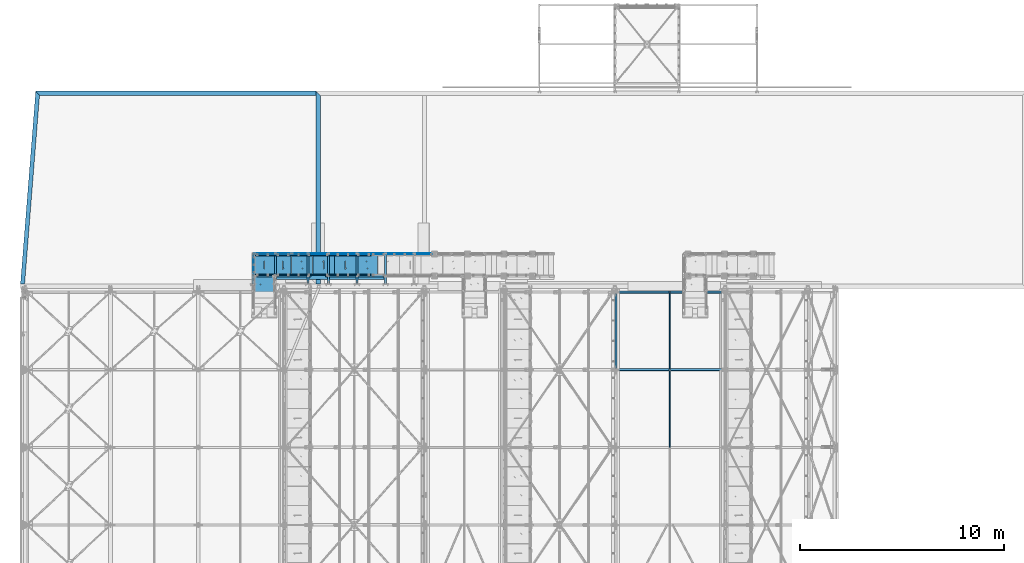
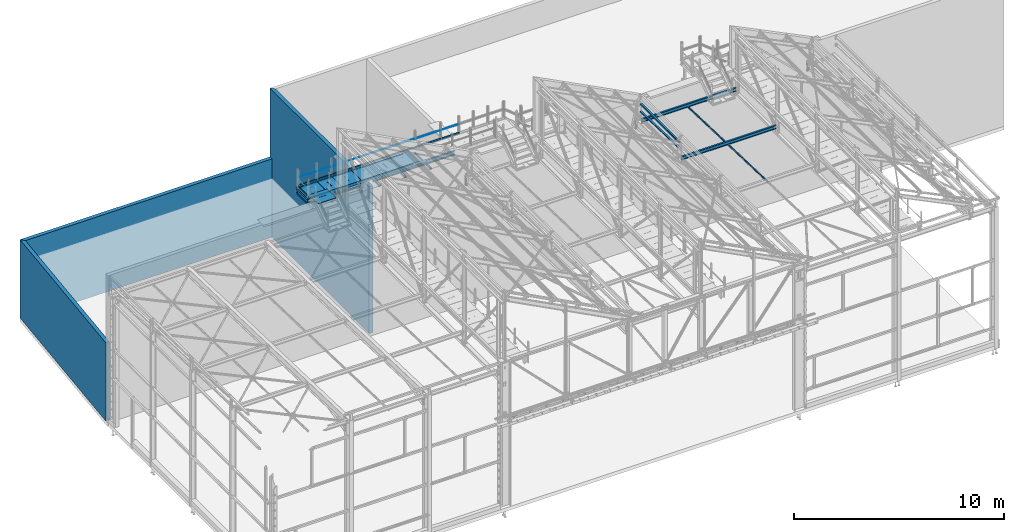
# One storey, part 52 of 362: 33 beams, 31 elements without a shape of their own.
"""IFC2X3 building model written with IfcOpenShell, lengths in millimetres."""

from ifc_helpers import new_model, si_unit, frame, origin_with_axes, origin_2d_with_axis, place, context, subcontext, project, spatial, polyline, rectangle, hollow_rectangle, hollow_circle, i_section, l_section, u_section, outline, extrude, boolean, clip, halfspace, material, type_object, element, aggregate, save


model = new_model("IFC2X3")

# Units and contexts
model_context = context("Model", 3, precision=1e-05, world=origin_with_axes())
body_context = subcontext(model_context, "Body", "Model", "MODEL_VIEW")
ifc_project = project(units=[si_unit("LENGTHUNIT", "METRE", prefix="MILLI"), si_unit("AREAUNIT", "SQUARE_METRE"), si_unit("VOLUMEUNIT", "CUBIC_METRE"), si_unit("MASSUNIT", "GRAM", prefix="KILO"), si_unit("TIMEUNIT", "SECOND"), si_unit("PLANEANGLEUNIT", "RADIAN"), si_unit("SOLIDANGLEUNIT", "STERADIAN"), si_unit("THERMODYNAMICTEMPERATUREUNIT", "DEGREE_CELSIUS"), si_unit("LUMINOUSINTENSITYUNIT", "LUMEN")], contexts=[model_context])

# Site, building, storey
site_placement = place(None, origin_with_axes())
site = spatial("IfcSite", under=ifc_project, at=site_placement, Name="Undefined", CompositionType="ELEMENT")
building_placement = place(site_placement, origin_with_axes())
building = spatial("IfcBuilding", under=site, at=building_placement, Name="Undefined", CompositionType="ELEMENT")
storey_placement = place(building_placement, origin_with_axes())
storey = spatial("IfcBuildingStorey", under=building, at=storey_placement, Name="Undefined", CompositionType="ELEMENT", Elevation=0.0)

# Assembly, beam
assembly_1_placement = place(storey_placement, origin_with_axes())
assembly_1 = element("IfcElementAssembly", 1, at=assembly_1_placement, inside=storey, Name="MAIN COURANTE", AssemblyPlace="NOTDEFINED", PredefinedType="NOTDEFINED")
ifc_material_1 = material(Name="Undefined/S235-E24")
beam_type_1 = type_object("IfcBeamType", Name="PL200*6", PredefinedType="NOTDEFINED")
beam_1_placement = place(assembly_1_placement, frame((17579.9961849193, 15930.0010285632, 8703.00000001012), z_axis=(0.0, -1.0, 0.0), x_axis=(-1.0, 0.0, 0.0)))
beam_1 = element("IfcBeam", 2, at=beam_1_placement, type_object=beam_type_1, material=ifc_material_1, Name="CACHE VIDE", ObjectType="PL200*6", context=body_context, shape_type="SweptSolid", body=[
    extrude(rectangle(XDim=6.0, YDim=200.0, at=origin_2d_with_axis()), frame((5350.00080258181, 0.0, 0.0), z_axis=(-1.0, 0.0, 0.0), x_axis=(0.0, -1.0, 0.0)), (0.0, 0.0, 1.0), 5350.0),
])
aggregate(assembly_1, [beam_1])

assembly_2_placement = place(storey_placement, origin_with_axes())
assembly_2 = element("IfcElementAssembly", 3, at=assembly_2_placement, inside=storey, Name="MAIN COURANTE", AssemblyPlace="NOTDEFINED", PredefinedType="NOTDEFINED")
beam_type_2 = type_object("IfcBeamType", Name="TUBE-21.3*2", PredefinedType="NOTDEFINED")
beam_2_placement = place(assembly_2_placement, frame((14859.9961849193, 17089.994110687, 9243.80000001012), z_axis=(0.0, 1.0, 0.0), x_axis=(1.0, 0.0, 0.0)))
beam_2 = element("IfcBeam", 4, at=beam_2_placement, type_object=beam_type_2, material=ifc_material_1, Name="LISSE", ObjectType="TUBE-21.3*2", context=body_context, shape_type="SweptSolid", body=[
    extrude(hollow_circle(Radius=10.64999962, WallThickness=2.0, at=origin_2d_with_axis()), frame((5189.99999999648, 0.0, 0.0), z_axis=(-1.0, 0.0, 0.0), x_axis=(0.0, -1.0, 0.0)), (0.0, 0.0, 1.0), 5190.0),
])

assembly_3_placement = place(storey_placement, origin_with_axes())
assembly_3 = element("IfcElementAssembly", 5, at=assembly_3_placement, inside=storey, Name="MAIN COURANTE", AssemblyPlace="NOTDEFINED", PredefinedType="NOTDEFINED")
beam_3_placement = place(assembly_3_placement, frame((11225.0062475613, 17089.9937511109, 9243.80000001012), z_axis=(0.0, 1.0, 0.0), x_axis=(1.0, 0.0, 0.0)))
beam_3 = element("IfcBeam", 6, at=beam_3_placement, type_object=beam_type_2, material=ifc_material_1, Name="LISSE", ObjectType="TUBE-21.3*2", context=body_context, shape_type="SweptSolid", body=[
    extrude(hollow_circle(Radius=10.64999962, WallThickness=2.0, at=origin_2d_with_axis()), frame((3624.98993735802, 0.0, 0.0), z_axis=(-1.0, 0.0, 0.0), x_axis=(0.0, -1.0, 0.0)), (0.0, 0.0, 1.0), 3624.99),
])

assembly_4_placement = place(storey_placement, origin_with_axes())
assembly_4 = element("IfcElementAssembly", 7, at=assembly_4_placement, inside=storey, Name="CONSOLE", AssemblyPlace="NOTDEFINED", PredefinedType="NOTDEFINED")
beam_type_3 = type_object("IfcBeamType", Name="TUBE-C-100*100*5", PredefinedType="NOTDEFINED")
beam_4_placement = place(assembly_4_placement, frame((12255.0007605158, 17119.9934272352, 8390.0), z_axis=(-1.0, 0.0, 0.0), x_axis=(0.0, -1.0, 0.0)))
beam_4 = element("IfcBeam", 8, at=beam_4_placement, type_object=beam_type_3, material=ifc_material_1, Name="CONSOLE", ObjectType="TUBE-C-100*100*5", context=body_context, shape_type="CSG", body=[
    boolean("DIFFERENCE", extrude(hollow_rectangle(XDim=100.0, YDim=100.0, WallThickness=5.0, InnerFilletRadius=5.0, OuterFilletRadius=10.0, at=origin_2d_with_axis()), frame((1517.99358081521, 0.0, 0.0), z_axis=(-1.0, 0.0, 0.0), x_axis=(0.0, -1.0, 0.0)), (0.0, 0.0, 1.0), 1517.99), extrude(outline(polyline([(0.0, 0.0), (19.9999999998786, -3.63797880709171e-12), (20.0, 300.0), (0.0, 300.0), (-118.0, 275.0), (-118.0, 155.0), (0.0, 0.0)])), frame((1497.99342723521, -215.0, -4.0), z_axis=(0.0, 0.0, 1.0), x_axis=(1.0, 0.0, 0.0)), (0.0, 0.0, 1.0), 8.0)),
])
aggregate(assembly_4, [beam_4])

assembly_5_placement = place(storey_placement, origin_with_axes())
assembly_5 = element("IfcElementAssembly", 9, at=assembly_5_placement, inside=storey, Name="CONSOLE", AssemblyPlace="NOTDEFINED", PredefinedType="NOTDEFINED")
beam_5_placement = place(assembly_5_placement, frame((17655.0007605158, 17119.9934272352, 8390.0), z_axis=(-1.0, 0.0, 0.0), x_axis=(0.0, -1.0, 0.0)))
beam_5 = element("IfcBeam", 10, at=beam_5_placement, type_object=beam_type_3, material=ifc_material_1, Name="CONSOLE", ObjectType="TUBE-C-100*100*5", context=body_context, shape_type="CSG", body=[
    boolean("DIFFERENCE", extrude(hollow_rectangle(XDim=100.0, YDim=100.0, WallThickness=5.0, InnerFilletRadius=5.0, OuterFilletRadius=10.0, at=origin_2d_with_axis()), frame((1517.99358081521, 0.0, 0.0), z_axis=(-1.0, 0.0, 0.0), x_axis=(0.0, -1.0, 0.0)), (0.0, 0.0, 1.0), 1517.99), extrude(outline(polyline([(0.0, 0.0), (19.9999999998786, -3.63797880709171e-12), (20.0, 300.0), (0.0, 300.0), (-118.0, 275.0), (-118.0, 155.0), (0.0, 0.0)])), frame((1497.99342723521, -215.0, -4.0), z_axis=(0.0, 0.0, 1.0), x_axis=(1.0, 0.0, 0.0)), (0.0, 0.0, 1.0), 8.0)),
])
aggregate(assembly_5, [beam_5])

assembly_6_placement = place(storey_placement, origin_with_axes())
assembly_6 = element("IfcElementAssembly", 11, at=assembly_6_placement, inside=storey, Name="CONSOLE", AssemblyPlace="NOTDEFINED", PredefinedType="NOTDEFINED")
beam_6_placement = place(assembly_6_placement, frame((16255.0007605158, 17119.9934272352, 8390.0), z_axis=(-1.0, 0.0, 0.0), x_axis=(0.0, -1.0, 0.0)))
beam_6 = element("IfcBeam", 12, at=beam_6_placement, type_object=beam_type_3, material=ifc_material_1, Name="CONSOLE", ObjectType="TUBE-C-100*100*5", context=body_context, shape_type="CSG", body=[
    boolean("DIFFERENCE", extrude(hollow_rectangle(XDim=100.0, YDim=100.0, WallThickness=5.0, InnerFilletRadius=5.0, OuterFilletRadius=10.0, at=origin_2d_with_axis()), frame((1517.99358081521, 0.0, 0.0), z_axis=(-1.0, 0.0, 0.0), x_axis=(0.0, -1.0, 0.0)), (0.0, 0.0, 1.0), 1517.99), extrude(outline(polyline([(0.0, 0.0), (19.9999999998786, -3.63797880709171e-12), (20.0, 300.0), (0.0, 300.0), (-118.0, 275.0), (-118.0, 155.0), (0.0, 0.0)])), frame((1497.99342723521, -215.0, -4.0), z_axis=(0.0, 0.0, 1.0), x_axis=(1.0, 0.0, 0.0)), (0.0, 0.0, 1.0), 8.0)),
])
aggregate(assembly_6, [beam_6])

assembly_7_placement = place(storey_placement, origin_with_axes())
assembly_7 = element("IfcElementAssembly", 13, at=assembly_7_placement, inside=storey, Name="CONSOLE", AssemblyPlace="NOTDEFINED", PredefinedType="NOTDEFINED")
beam_7_placement = place(assembly_7_placement, frame((14855.0007605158, 17119.9934272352, 8390.0), z_axis=(-1.0, 0.0, 0.0), x_axis=(0.0, -1.0, 0.0)))
beam_7 = element("IfcBeam", 14, at=beam_7_placement, type_object=beam_type_3, material=ifc_material_1, Name="CONSOLE", ObjectType="TUBE-C-100*100*5", context=body_context, shape_type="CSG", body=[
    boolean("DIFFERENCE", extrude(hollow_rectangle(XDim=100.0, YDim=100.0, WallThickness=5.0, InnerFilletRadius=5.0, OuterFilletRadius=10.0, at=origin_2d_with_axis()), frame((1517.99358081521, 0.0, 0.0), z_axis=(-1.0, 0.0, 0.0), x_axis=(0.0, -1.0, 0.0)), (0.0, 0.0, 1.0), 1517.99), extrude(outline(polyline([(0.0, 0.0), (19.9999999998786, -3.63797880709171e-12), (20.0, 300.0), (0.0, 300.0), (-118.0, 275.0), (-118.0, 155.0), (0.0, 0.0)])), frame((1497.99342723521, -215.0, -4.0), z_axis=(0.0, 0.0, 1.0), x_axis=(1.0, 0.0, 0.0)), (0.0, 0.0, 1.0), 8.0)),
])
aggregate(assembly_7, [beam_7])

assembly_8_placement = place(storey_placement, origin_with_axes())
assembly_8 = element("IfcElementAssembly", 15, at=assembly_8_placement, inside=storey, Name="CONSOLE", AssemblyPlace="NOTDEFINED", PredefinedType="NOTDEFINED")
beam_8_placement = place(assembly_8_placement, frame((13855.0007605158, 17119.9934272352, 8390.0), z_axis=(-1.0, 0.0, 0.0), x_axis=(0.0, -1.0, 0.0)))
beam_8 = element("IfcBeam", 16, at=beam_8_placement, type_object=beam_type_3, material=ifc_material_1, Name="CONSOLE", ObjectType="TUBE-C-100*100*5", context=body_context, shape_type="CSG", body=[
    boolean("DIFFERENCE", extrude(hollow_rectangle(XDim=100.0, YDim=100.0, WallThickness=5.0, InnerFilletRadius=5.0, OuterFilletRadius=10.0, at=origin_2d_with_axis()), frame((1517.99358081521, 0.0, 0.0), z_axis=(-1.0, 0.0, 0.0), x_axis=(0.0, -1.0, 0.0)), (0.0, 0.0, 1.0), 1517.99), extrude(outline(polyline([(0.0, 0.0), (19.9999999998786, -3.63797880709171e-12), (20.0, 300.0), (0.0, 300.0), (-118.0, 275.0), (-118.0, 155.0), (0.0, 0.0)])), frame((1497.99342723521, -215.0, -4.0), z_axis=(0.0, 0.0, 1.0), x_axis=(1.0, 0.0, 0.0)), (0.0, 0.0, 1.0), 8.0)),
])
aggregate(assembly_8, [beam_8])

assembly_9_placement = place(storey_placement, origin_with_axes())
assembly_9 = element("IfcElementAssembly", 17, at=assembly_9_placement, inside=storey, Name="CONSOLE", AssemblyPlace="NOTDEFINED", PredefinedType="NOTDEFINED")
beam_9_placement = place(assembly_9_placement, frame((11165.0007605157, 17119.9935808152, 8390.0), z_axis=(-1.0, 0.0, 0.0), x_axis=(0.0, -1.0, 0.0)))
beam_9 = element("IfcBeam", 18, at=beam_9_placement, type_object=beam_type_3, material=ifc_material_1, Name="CONSOLE", ObjectType="TUBE-C-100*100*5", context=body_context, shape_type="CSG", body=[
    boolean("DIFFERENCE", extrude(hollow_rectangle(XDim=100.0, YDim=100.0, WallThickness=5.0, InnerFilletRadius=5.0, OuterFilletRadius=10.0, at=origin_2d_with_axis()), frame((1517.99358081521, 0.0, 0.0), z_axis=(-1.0, 0.0, 0.0), x_axis=(0.0, -1.0, 0.0)), (0.0, 0.0, 1.0), 1517.99), extrude(outline(polyline([(0.0, 0.0), (19.9999999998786, -3.63797880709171e-12), (20.0, 300.0), (0.0, 300.0), (-118.0, 275.0), (-118.0, 155.0), (0.0, 0.0)])), frame((1497.99358081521, -215.0, -4.0), z_axis=(0.0, 0.0, 1.0), x_axis=(1.0, 0.0, 0.0)), (0.0, 0.0, 1.0), 8.0)),
])
aggregate(assembly_9, [beam_9])

# Beam
beam_type_4 = type_object("IfcBeamType", Name="PL100*5", PredefinedType="NOTDEFINED")
beam_10_placement = place(assembly_2_placement, frame((20054.9961849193, 17057.481480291, 8760.00000001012), z_axis=(0.0, 0.0, -1.0), x_axis=(-1.0, 0.0, 0.0)))
beam_10 = element("IfcBeam", 19, at=beam_10_placement, type_object=beam_type_4, material=ifc_material_1, Name="PLINTHE", ObjectType="PL100*5", context=body_context, shape_type="SweptSolid", body=[
    extrude(rectangle(XDim=5.0, YDim=100.0, at=origin_2d_with_axis()), frame((5200.0, 0.0, 0.0), z_axis=(-1.0, 0.0, 0.0), x_axis=(0.0, -1.0, 0.0)), (0.0, 0.0, 1.0), 5200.0),
])

aggregate(assembly_2, [beam_10, beam_2])

beam_11_placement = place(assembly_3_placement, frame((14854.9961849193, 17057.481480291, 8760.00000001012), z_axis=(0.0, 0.0, -1.0), x_axis=(-1.0, 0.0, 0.0)))
beam_11 = element("IfcBeam", 20, at=beam_11_placement, type_object=beam_type_4, material=ifc_material_1, Name="PLINTHE", ObjectType="PL100*5", context=body_context, shape_type="SweptSolid", body=[
    extrude(rectangle(XDim=5.0, YDim=100.0, at=origin_2d_with_axis()), frame((3649.98401228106, 0.0, 0.0), z_axis=(-1.0, 0.0, 0.0), x_axis=(0.0, -1.0, 0.0)), (0.0, 0.0, 1.0), 3649.98),
])

aggregate(assembly_3, [beam_11, beam_3])

# Assembly, beam
assembly_10_placement = place(storey_placement, origin_with_axes())
assembly_10 = element("IfcElementAssembly", 21, at=assembly_10_placement, inside=storey, Name="MAIN COURANTE", AssemblyPlace="NOTDEFINED", PredefinedType="NOTDEFINED")
beam_12_placement = place(assembly_10_placement, frame((11182.4987221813, 17034.9977309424, 8760.00000001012), z_axis=(0.0, 0.0, -1.0), x_axis=(0.0, -1.0, 0.0)))
beam_12 = element("IfcBeam", 22, at=beam_12_placement, type_object=beam_type_4, material=ifc_material_1, Name="PLINTHE", ObjectType="PL100*5", context=body_context, shape_type="SweptSolid", body=[
    extrude(rectangle(XDim=5.0, YDim=100.0, at=origin_2d_with_axis()), frame((1009.99407492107, 0.0, 0.0), z_axis=(-1.0, 0.0, 0.0), x_axis=(0.0, -1.0, 0.0)), (0.0, 0.0, 1.0), 1009.99),
])
aggregate(assembly_10, [beam_12])

assembly_11_placement = place(storey_placement, origin_with_axes())
assembly_11 = element("IfcElementAssembly", 23, at=assembly_11_placement, inside=storey, Name="PALIER", AssemblyPlace="NOTDEFINED", PredefinedType="NOTDEFINED")
beam_type_5 = type_object("IfcBeamType", Name="PL30*990", PredefinedType="NOTDEFINED")
beam_13_placement = place(assembly_11_placement, frame((13024.9999902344, 16530.001494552, 8685.0), z_axis=(0.0, 1.0, 0.0), x_axis=(-1.0, 0.0, 0.0)))
beam_13 = element("IfcBeam", 24, at=beam_13_placement, type_object=beam_type_5, material=ifc_material_1, Name="PALIER", ObjectType="PL30*990", context=body_context, shape_type="CSG", body=[
    boolean("DIFFERENCE", extrude(rectangle(XDim=30.0, YDim=990.0, at=origin_2d_with_axis()), frame((810.0, 0.0, 0.0), z_axis=(-1.0, 0.0, 0.0), x_axis=(0.0, -1.0, 0.0)), (0.0, 0.0, 1.0), 810.0), extrude(outline(polyline([(0.0, 0.0), (87.0678024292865, -7.27595761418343e-12), (-195.774902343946, 282.842712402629), (-132.842712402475, 282.842712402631), (-132.842712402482, 292.84271240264), (-219.917037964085, 292.84271240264), (62.9256706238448, 10.0000000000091), (-1.81898940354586e-10, 10.0000000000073), (0.0, 0.0)])), frame((348.432567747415, 17.4998126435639, -150.504333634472), z_axis=(0.0, -1.0, 0.0), x_axis=(0.707106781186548, 0.0, -0.707106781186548)), (0.0, 0.0, 1.0), 35.0)),
])
aggregate(assembly_11, [beam_13])

assembly_12_placement = place(storey_placement, origin_with_axes())
assembly_12 = element("IfcElementAssembly", 25, at=assembly_12_placement, inside=storey, Name="PALIER", AssemblyPlace="NOTDEFINED", PredefinedType="NOTDEFINED")
beam_14_placement = place(assembly_12_placement, frame((14084.9999902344, 16530.001494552, 8685.0), z_axis=(0.0, 1.0, 0.0), x_axis=(-1.0, 0.0, 0.0)))
beam_14 = element("IfcBeam", 26, at=beam_14_placement, type_object=beam_type_5, material=ifc_material_1, Name="PALIER", ObjectType="PL30*990", context=body_context, shape_type="CSG", body=[
    boolean("DIFFERENCE", extrude(rectangle(XDim=30.0, YDim=990.0, at=origin_2d_with_axis()), frame((1050.0, 0.0, 0.0), z_axis=(-1.0, 0.0, 0.0), x_axis=(0.0, -1.0, 0.0)), (0.0, 0.0, 1.0), 1050.0), extrude(outline(polyline([(0.0, 0.0), (87.0678024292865, -7.27595761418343e-12), (-195.774902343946, 282.842712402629), (-132.842712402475, 282.842712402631), (-132.842712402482, 292.84271240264), (-219.917037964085, 292.84271240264), (62.9256706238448, 10.0000000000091), (-1.81898940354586e-10, 10.0000000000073), (0.0, 0.0)])), frame((468.433762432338, 17.4998126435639, -150.504333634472), z_axis=(0.0, -1.0, 0.0), x_axis=(0.707106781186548, 0.0, -0.707106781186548)), (0.0, 0.0, 1.0), 35.0)),
])
aggregate(assembly_12, [beam_14])

assembly_13_placement = place(storey_placement, origin_with_axes())
assembly_13 = element("IfcElementAssembly", 27, at=assembly_13_placement, inside=storey, Name="PALIER", AssemblyPlace="NOTDEFINED", PredefinedType="NOTDEFINED")
beam_15_placement = place(assembly_13_placement, frame((15144.9999902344, 16530.001494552, 8685.0), z_axis=(0.0, 1.0, 0.0), x_axis=(-1.0, 0.0, 0.0)))
beam_15 = element("IfcBeam", 28, at=beam_15_placement, type_object=beam_type_5, material=ifc_material_1, Name="PALIER", ObjectType="PL30*990", context=body_context, shape_type="CSG", body=[
    boolean("DIFFERENCE", extrude(rectangle(XDim=30.0, YDim=990.0, at=origin_2d_with_axis()), frame((1050.0, 0.0, 0.0), z_axis=(-1.0, 0.0, 0.0), x_axis=(0.0, -1.0, 0.0)), (0.0, 0.0, 1.0), 1050.0), extrude(outline(polyline([(0.0, 0.0), (87.0678024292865, -7.27595761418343e-12), (-195.774902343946, 282.842712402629), (-132.842712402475, 282.842712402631), (-132.842712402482, 292.84271240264), (-219.917037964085, 292.84271240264), (62.9256706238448, 10.0000000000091), (-1.81898940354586e-10, 10.0000000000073), (0.0, 0.0)])), frame((468.433762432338, 17.4998126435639, -150.504333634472), z_axis=(0.0, -1.0, 0.0), x_axis=(0.707106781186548, 0.0, -0.707106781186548)), (0.0, 0.0, 1.0), 35.0)),
])
aggregate(assembly_13, [beam_15])

assembly_14_placement = place(storey_placement, origin_with_axes())
assembly_14 = element("IfcElementAssembly", 29, at=assembly_14_placement, inside=storey, Name="PALIER", AssemblyPlace="NOTDEFINED", PredefinedType="NOTDEFINED")
beam_16_placement = place(assembly_14_placement, frame((16204.9999902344, 16530.001494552, 8685.0), z_axis=(0.0, 1.0, 0.0), x_axis=(-1.0, 0.0, 0.0)))
beam_16 = element("IfcBeam", 30, at=beam_16_placement, type_object=beam_type_5, material=ifc_material_1, Name="PALIER", ObjectType="PL30*990", context=body_context, shape_type="CSG", body=[
    boolean("DIFFERENCE", extrude(rectangle(XDim=30.0, YDim=990.0, at=origin_2d_with_axis()), frame((1050.0, 0.0, 0.0), z_axis=(-1.0, 0.0, 0.0), x_axis=(0.0, -1.0, 0.0)), (0.0, 0.0, 1.0), 1050.0), extrude(outline(polyline([(0.0, 0.0), (87.0678024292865, -7.27595761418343e-12), (-195.774902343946, 282.842712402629), (-132.842712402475, 282.842712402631), (-132.842712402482, 292.84271240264), (-219.917037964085, 292.84271240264), (62.9256706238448, 10.0000000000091), (-1.81898940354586e-10, 10.0000000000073), (0.0, 0.0)])), frame((468.433762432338, 17.4998126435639, -150.504333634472), z_axis=(0.0, -1.0, 0.0), x_axis=(0.707106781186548, 0.0, -0.707106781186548)), (0.0, 0.0, 1.0), 35.0)),
])
aggregate(assembly_14, [beam_16])

assembly_15_placement = place(storey_placement, origin_with_axes())
assembly_15 = element("IfcElementAssembly", 31, at=assembly_15_placement, inside=storey, Name="PALIER", AssemblyPlace="NOTDEFINED", PredefinedType="NOTDEFINED")
beam_17_placement = place(assembly_15_placement, frame((17264.9999902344, 16530.001494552, 8685.0), z_axis=(0.0, 1.0, 0.0), x_axis=(-1.0, 0.0, 0.0)))
beam_17 = element("IfcBeam", 32, at=beam_17_placement, type_object=beam_type_5, material=ifc_material_1, Name="PALIER", ObjectType="PL30*990", context=body_context, shape_type="CSG", body=[
    boolean("DIFFERENCE", extrude(rectangle(XDim=30.0, YDim=990.0, at=origin_2d_with_axis()), frame((1050.0, 0.0, 0.0), z_axis=(-1.0, 0.0, 0.0), x_axis=(0.0, -1.0, 0.0)), (0.0, 0.0, 1.0), 1050.0), extrude(outline(polyline([(0.0, 0.0), (87.0678024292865, -7.27595761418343e-12), (-195.774902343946, 282.842712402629), (-132.842712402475, 282.842712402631), (-132.842712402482, 292.84271240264), (-219.917037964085, 292.84271240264), (62.9256706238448, 10.0000000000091), (-1.81898940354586e-10, 10.0000000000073), (0.0, 0.0)])), frame((468.432567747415, 17.4998126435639, -150.504333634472), z_axis=(0.0, -1.0, 0.0), x_axis=(0.707106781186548, 0.0, -0.707106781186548)), (0.0, 0.0, 1.0), 35.0)),
])
aggregate(assembly_15, [beam_17])

assembly_16_placement = place(storey_placement, origin_with_axes())
assembly_16 = element("IfcElementAssembly", 33, at=assembly_16_placement, inside=storey, Name="PALIER", AssemblyPlace="NOTDEFINED", PredefinedType="NOTDEFINED")
beam_18_placement = place(assembly_16_placement, frame((11709.9938089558, 16020.0002777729, 8865.0), z_axis=(-1.0, 0.0, 0.0), x_axis=(0.0, -1.0, 0.0)))
beam_18 = element("IfcBeam", 34, at=beam_18_placement, type_object=beam_type_5, material=ifc_material_1, Name="PALIER", ObjectType="PL30*990", context=body_context, shape_type="CSG", body=[
    boolean("DIFFERENCE", extrude(rectangle(XDim=30.0, YDim=990.0, at=origin_2d_with_axis()), frame((845.000486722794, 0.0, 0.0), z_axis=(-1.0, 0.0, 0.0), x_axis=(0.0, -1.0, 0.0)), (0.0, 0.0, 1.0), 845.0), extrude(outline(polyline([(0.0, 0.0), (87.0678024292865, -7.27595761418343e-12), (-195.774902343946, 282.842712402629), (-132.842712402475, 282.842712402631), (-132.842712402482, 292.84271240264), (-219.917037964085, 292.84271240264), (62.9256706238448, 10.0000000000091), (-1.81898940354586e-10, 10.0000000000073), (0.0, 0.0)])), frame((365.937115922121, 17.4998126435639, -150.509457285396), z_axis=(0.0, -1.0, 0.0), x_axis=(0.707106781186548, 0.0, -0.707106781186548)), (0.0, 0.0, 1.0), 35.0)),
])
aggregate(assembly_16, [beam_18])

assembly_17_placement = place(storey_placement, origin_with_axes())
assembly_17 = element("IfcElementAssembly", 35, at=assembly_17_placement, inside=storey, Name="PALIER", AssemblyPlace="NOTDEFINED", PredefinedType="NOTDEFINED")
beam_19_placement = place(assembly_17_placement, frame((12204.9999902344, 16529.9996474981, 8685.0), z_axis=(0.0, 1.0, 0.0), x_axis=(-1.0, 0.0, 0.0)))
beam_19 = element("IfcBeam", 36, at=beam_19_placement, type_object=beam_type_5, material=ifc_material_1, Name="PALIER", ObjectType="PL30*990", context=body_context, shape_type="CSG", body=[
    boolean("DIFFERENCE", extrude(rectangle(XDim=30.0, YDim=990.0, at=origin_2d_with_axis()), frame((990.0, 0.0, 0.0), z_axis=(-1.0, 0.0, 0.0), x_axis=(0.0, -1.0, 0.0)), (0.0, 0.0, 1.0), 990.0), extrude(outline(polyline([(0.0, 0.0), (87.0678024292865, -7.27595761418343e-12), (-195.774902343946, 282.842712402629), (-132.842712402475, 282.842712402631), (-132.842712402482, 292.84271240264), (-219.917037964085, 292.84271240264), (62.9256706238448, 10.0000000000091), (-1.81898940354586e-10, 10.0000000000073), (0.0, 0.0)])), frame((438.43376243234, 17.4998126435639, -150.502486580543), z_axis=(0.0, -1.0, 0.0), x_axis=(0.707106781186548, 0.0, -0.707106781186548)), (0.0, 0.0, 1.0), 35.0)),
])
aggregate(assembly_17, [beam_19])

assembly_18_placement = place(storey_placement, origin_with_axes())
assembly_18 = element("IfcElementAssembly", 37, at=assembly_18_placement, inside=storey, Name="SUPPORT", AssemblyPlace="NOTDEFINED", PredefinedType="NOTDEFINED")
beam_type_6 = type_object("IfcBeamType", Name="L50*5", PredefinedType="NOTDEFINED")
beam_20_placement = place(assembly_18_placement, frame((11284.9999772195, 17005.0001222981, 8645.0), z_axis=(0.0, -1.0, 0.0), x_axis=(1.0, 0.0, 0.0)))
beam_20 = element("IfcBeam", 38, at=beam_20_placement, type_object=beam_type_6, material=ifc_material_1, Name="SUPPORT", ObjectType="L50*5", context=body_context, shape_type="SweptSolid", body=[
    extrude(l_section(Depth=50.0, Width=50.0, Thickness=5.0, FilletRadius=7.0, EdgeRadius=3.5, at=origin_2d_with_axis()), frame((5660.00147115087, 0.0, 5.99275965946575e-19), z_axis=(-1.0, 0.0, 0.0), x_axis=(0.0, -1.0, 0.0)), (0.0, 0.0, 1.0), 5660.0),
])
aggregate(assembly_18, [beam_20])

assembly_19_placement = place(storey_placement, origin_with_axes())
assembly_19 = element("IfcElementAssembly", 39, at=assembly_19_placement, inside=storey, Name="SUPPORT", AssemblyPlace="NOTDEFINED", PredefinedType="NOTDEFINED")
beam_21_placement = place(assembly_19_placement, frame((16945.001448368, 16055.0028209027, 8645.0), z_axis=(0.0, 1.0, 0.0), x_axis=(-1.0, 0.0, 0.0)))
beam_21 = element("IfcBeam", 40, at=beam_21_placement, type_object=beam_type_6, material=ifc_material_1, Name="SUPPORT", ObjectType="L50*5", context=body_context, shape_type="SweptSolid", body=[
    extrude(l_section(Depth=50.0, Width=50.0, Thickness=5.0, FilletRadius=7.0, EdgeRadius=3.5, at=origin_2d_with_axis()), frame((5660.00147115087, 0.0, 5.99275965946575e-19), z_axis=(-1.0, 0.0, 0.0), x_axis=(0.0, -1.0, 0.0)), (0.0, 0.0, 1.0), 5660.0),
])
aggregate(assembly_19, [beam_21])

assembly_20_placement = place(storey_placement, origin_with_axes())
assembly_20 = element("IfcElementAssembly", 41, at=assembly_20_placement, inside=storey, AssemblyPlace="NOTDEFINED", PredefinedType="NOTDEFINED")
beam_22_placement = place(assembly_20_placement, frame((31577.0000126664, 7601.07123853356, 7586.01904276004), z_axis=(1.0, 0.0, 0.0), x_axis=(3.14103090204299e-11, 0.999506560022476, -0.0314107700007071)))
beam_22 = element("IfcBeam", 42, at=beam_22_placement, type_object=beam_type_6, material=ifc_material_1, Name="LIERNE", ObjectType="L50*5", context=body_context, shape_type="SweptSolid", body=[
    extrude(l_section(Depth=50.0, Width=50.0, Thickness=5.0, FilletRadius=7.0, EdgeRadius=3.5, at=origin_2d_with_axis()), frame((7648.75199419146, 0.0, 0.0), z_axis=(-1.0, 0.0, 0.0), x_axis=(0.0, -1.0, 0.0)), (0.0, 0.0, 1.0), 7648.75),
])
aggregate(assembly_20, [beam_22])

assembly_21_placement = place(storey_placement, origin_with_axes())
assembly_21 = element("IfcElementAssembly", 43, at=assembly_21_placement, inside=storey, AssemblyPlace="NOTDEFINED", PredefinedType="NOTDEFINED")
ifc_material_2 = material(Name="Undefined/S275-E28")
beam_type_7 = type_object("IfcBeamType", Name="UPN260", PredefinedType="NOTDEFINED")
beam_23_placement = place(assembly_21_placement, frame((19204.9983552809, 15984.998934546, 8570.00040284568), z_axis=(0.0, 0.0, -1.0), x_axis=(-1.0, 0.0, 0.0)))
beam_23 = element("IfcBeam", 44, at=beam_23_placement, type_object=beam_type_7, material=ifc_material_2, Name="LIMON", ObjectType="UPN260", context=body_context, shape_type="SweptSolid", body=[
    extrude(u_section(Depth=260.0, FlangeWidth=90.0, WebThickness=10.0, FlangeThickness=14.0, FilletRadius=14.0, EdgeRadius=7.0, FlangeSlope=0.0798299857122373, at=origin_2d_with_axis()), frame((4499.99759255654, -3.12035881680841e-20, 0.0), z_axis=(-1.0, 0.0, 0.0), x_axis=(0.0, -1.0, 0.0)), (0.0, 0.0, 1.0), 4500.0),
])
aggregate(assembly_21, [beam_23])

assembly_22_placement = place(storey_placement, origin_with_axes())
assembly_22 = element("IfcElementAssembly", 45, at=assembly_22_placement, inside=storey, AssemblyPlace="NOTDEFINED", PredefinedType="NOTDEFINED")
beam_24_placement = place(assembly_22_placement, frame((11165.0061849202, 16035.0001582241, 8570.0), z_axis=(0.0, 0.0, -1.0), x_axis=(-6.26399999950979e-06, 0.999999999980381, -3.63797880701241e-15)))
beam_24 = element("IfcBeam", 46, at=beam_24_placement, type_object=beam_type_7, material=ifc_material_2, Name="LIMON", ObjectType="UPN260", context=body_context, shape_type="SweptSolid", body=[
    extrude(u_section(Depth=260.0, FlangeWidth=90.0, WebThickness=10.0, FlangeThickness=14.0, FilletRadius=14.0, EdgeRadius=7.0, FlangeSlope=0.0798299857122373, at=origin_2d_with_axis()), frame((989.993334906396, 8.38556972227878e-19, 1.81898940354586e-12), z_axis=(-1.0, 0.0, 0.0), x_axis=(0.0, -1.0, 0.0)), (0.0, 0.0, 1.0), 989.99),
])
aggregate(assembly_22, [beam_24])

assembly_23_placement = place(storey_placement, origin_with_axes())
assembly_23 = element("IfcElementAssembly", 47, at=assembly_23_placement, inside=storey, AssemblyPlace="NOTDEFINED", PredefinedType="NOTDEFINED")
beam_25_placement = place(assembly_23_placement, frame((14004.9999949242, 15984.9990101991, 8570.00040284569), z_axis=(0.0, 0.0, -1.0), x_axis=(-1.0, 0.0, 0.0)))
beam_25 = element("IfcBeam", 48, at=beam_25_placement, type_object=beam_type_7, material=ifc_material_2, Name="LIMON", ObjectType="UPN260", context=body_context, shape_type="SweptSolid", body=[
    extrude(u_section(Depth=260.0, FlangeWidth=90.0, WebThickness=10.0, FlangeThickness=14.0, FilletRadius=14.0, EdgeRadius=7.0, FlangeSlope=0.0798299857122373, at=origin_2d_with_axis()), frame((2890.00922979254, 7.81791676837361e-20, 0.0), z_axis=(-1.0, 0.0, 0.0), x_axis=(0.0, -1.0, 0.0)), (0.0, 0.0, 1.0), 2890.01),
])
aggregate(assembly_23, [beam_25])

assembly_24_placement = place(storey_placement, origin_with_axes())
assembly_24 = element("IfcElementAssembly", 49, at=assembly_24_placement, inside=storey, AssemblyPlace="NOTDEFINED", PredefinedType="NOTDEFINED")
beam_26_placement = place(assembly_24_placement, frame((11114.9922766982, 17074.9935807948, 8570.00000000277), z_axis=(0.0, 0.0, -1.0), x_axis=(0.999999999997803, 2.09200000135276e-06, 1.31999999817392e-07)))
beam_26 = element("IfcBeam", 50, at=beam_26_placement, type_object=beam_type_7, material=ifc_material_2, Name="LIMON", ObjectType="UPN260", context=body_context, shape_type="SweptSolid", body=[
    extrude(u_section(Depth=260.0, FlangeWidth=90.0, WebThickness=10.0, FlangeThickness=14.0, FilletRadius=14.0, EdgeRadius=7.0, FlangeSlope=0.0798299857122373, at=origin_2d_with_axis()), frame((2890.00764618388, 2.7468346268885e-19, 1.81898955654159e-12), z_axis=(-1.0, 0.0, 0.0), x_axis=(0.0, -1.0, 0.0)), (0.0, 0.0, 1.0), 2890.01),
])
aggregate(assembly_24, [beam_26])

assembly_25_placement = place(storey_placement, origin_with_axes())
assembly_25 = element("IfcElementAssembly", 51, at=assembly_25_placement, inside=storey, Name="LISSE", AssemblyPlace="NOTDEFINED", PredefinedType="NOTDEFINED")
beam_type_8 = type_object("IfcBeamType", Name="UPF-100*50*4", PredefinedType="NOTDEFINED")
beam_27_placement = place(assembly_25_placement, frame((28930.0000000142, 11400.0, 8171.98873515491), z_axis=(1.0, 0.0, 0.0), x_axis=(0.0, 0.99950644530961, -0.0314144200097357)))
beam_27 = element("IfcBeam", 52, at=beam_27_placement, type_object=beam_type_8, material=ifc_material_1, Name="LISSE CONTREBARDAGE", ObjectType="UPF-100*50*4", context=body_context, shape_type="Clipping", body=[
    clip(clip(extrude(u_section(Depth=100.0, FlangeWidth=50.0, WebThickness=4.0, FlangeThickness=4.0, at=origin_2d_with_axis()), frame((3748.43634196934, 0.0, 0.0), z_axis=(-1.0, 0.0, 0.0), x_axis=(0.0, -1.0, 0.0)), (0.0, 0.0, 1.0), 3695.0), halfspace(frame((3745.45325324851, 44.4149471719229, 54.9999999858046), z_axis=(-0.999506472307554, -0.0314135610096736, 0.0), x_axis=(0.0, 0.0, 1.0)), True)), halfspace(frame((53.9730354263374, 33.5397111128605, 54.9999999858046), z_axis=(-0.999506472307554, -0.0314135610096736, 0.0), x_axis=(0.0, 0.0, 1.0)), False)),
])
aggregate(assembly_25, [beam_27])

assembly_26_placement = place(storey_placement, origin_with_axes())
assembly_26 = element("IfcElementAssembly", 53, at=assembly_26_placement, inside=storey, Name="LISSE", AssemblyPlace="NOTDEFINED", PredefinedType="NOTDEFINED")
beam_type_9 = type_object("IfcBeamType", Name="TUBE-C-100*100*4", PredefinedType="NOTDEFINED")
beam_28_placement = place(assembly_26_placement, frame((28929.9999999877, 11470.0, 8500.0), z_axis=(0.0, 0.0, 1.0), x_axis=(0.0, 1.0, 0.0)))
beam_28 = element("IfcBeam", 54, at=beam_28_placement, type_object=beam_type_9, material=ifc_material_1, Name="LISSE ACROTERE", ObjectType="TUBE-C-100*100*4", context=body_context, shape_type="SweptSolid", body=[
    extrude(hollow_rectangle(XDim=100.0, YDim=100.0, WallThickness=4.0, InnerFilletRadius=4.0, OuterFilletRadius=8.0, at=origin_2d_with_axis()), frame((3660.0, 0.0, 0.0), z_axis=(-1.0, 0.0, 0.0), x_axis=(0.0, -1.0, 0.0)), (0.0, 0.0, 1.0), 3660.0),
])
aggregate(assembly_26, [beam_28])

assembly_27_placement = place(storey_placement, origin_with_axes())
assembly_27 = element("IfcElementAssembly", 55, at=assembly_27_placement, inside=storey, Name="POUTRE", AssemblyPlace="NOTDEFINED", PredefinedType="REINFORCEMENT_UNIT")
ifc_material_3 = material(Name="CONCRETE/C25/30")
beam_type_10 = type_object("IfcBeamType", Name="8550*200", PredefinedType="NOTDEFINED")
beam_29_placement = place(assembly_27_placement, frame((14354.9999999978, 15589.9999107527, 4275.0), z_axis=(0.0, 0.0, 1.0), x_axis=(0.0, 1.0, 0.0)))
beam_29 = element("IfcBeam", 56, at=beam_29_placement, type_object=beam_type_10, material=ifc_material_3, Name="POUTRE", ObjectType="8550*200", context=body_context, shape_type="Clipping", body=[
    clip(extrude(rectangle(XDim=200.0, YDim=8550.0, at=origin_2d_with_axis()), frame((9451.00008924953, 0.0, 0.0), z_axis=(-1.0, 0.0, 0.0), x_axis=(0.0, -1.0, 0.0)), (0.0, 0.0, 1.0), 9451.0), halfspace(frame((9450.00008924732, 99.9999999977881, -4275.0), z_axis=(-0.707106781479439, 0.707106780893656, 2.92893673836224e-10), x_axis=(0.0, 0.0, 1.0)), True)),
])
aggregate(assembly_27, [beam_29])

assembly_28_placement = place(storey_placement, origin_with_axes())
assembly_28 = element("IfcElementAssembly", 57, at=assembly_28_placement, inside=storey, Name="POUTRE", AssemblyPlace="NOTDEFINED", PredefinedType="REINFORCEMENT_UNIT")
beam_type_11 = type_object("IfcBeamType", Name="4550*200", PredefinedType="NOTDEFINED")
beam_30_placement = place(assembly_28_placement, frame((14255.0, 24939.9999999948, 2275.0), z_axis=(0.0, 0.0, 1.0), x_axis=(-1.0, 0.0, 0.0)))
beam_30 = element("IfcBeam", 58, at=beam_30_placement, type_object=beam_type_11, material=ifc_material_3, Name="POUTRE", ObjectType="4550*200", context=body_context, shape_type="Clipping", body=[
    clip(extrude(rectangle(XDim=200.0, YDim=4550.0, at=origin_2d_with_axis()), frame((13734.3312485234, 0.0, 0.0), z_axis=(-1.0, 0.0, 0.0), x_axis=(0.0, -1.0, 0.0)), (0.0, 0.0, 1.0), 13734.33), halfspace(frame((13548.592821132, 100.000000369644, -2275.0), z_axis=(-0.734439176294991, -0.67867451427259, 0.0), x_axis=(0.0, 0.0, 1.0)), True)),
])
aggregate(assembly_28, [beam_30])

assembly_29_placement = place(storey_placement, origin_with_axes())
assembly_29 = element("IfcElementAssembly", 59, at=assembly_29_placement, inside=storey, Name="POUTRE", AssemblyPlace="NOTDEFINED", PredefinedType="REINFORCEMENT_UNIT")
beam_31_placement = place(assembly_29_placement, frame((621.281853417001, 25032.1198194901, 2274.99999999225), z_axis=(0.0, 0.0, 1.0), x_axis=(-0.0788018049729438, -0.996890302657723, 0.0)))
beam_31 = element("IfcBeam", 60, at=beam_31_placement, type_object=beam_type_11, material=ifc_material_3, Name="POUTRE", ObjectType="4550*200", context=body_context, shape_type="Clipping", body=[
    clip(clip(clip(extrude(rectangle(XDim=200.0, YDim=4550.0, at=origin_2d_with_axis()), frame((9586.76964239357, 1.33043154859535e-13, 4.54747350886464e-13), z_axis=(-1.0, 0.0, 0.0), x_axis=(0.0, -1.0, 0.0)), (0.0, 0.0, 1.0), 9609.56), halfspace(frame((100.311939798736, -830.961129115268, -2275.0), z_axis=(0.0788018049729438, -0.996890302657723, 0.0), x_axis=(0.0, 0.0, 1.0)), False)), halfspace(frame((9478.06434405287, -82.1124981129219, -2274.99999999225), z_axis=(0.996890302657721, 0.0788018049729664, 0.0), x_axis=(0.0, 0.0, 1.0)), False)), halfspace(frame((184.814356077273, 100.000000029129, -2274.99999999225), z_axis=(-0.734439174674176, 0.678674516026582, 0.0), x_axis=(0.0, 0.0, 1.0)), False)),
])
aggregate(assembly_29, [beam_31])

assembly_30_placement = place(storey_placement, origin_with_axes())
assembly_30 = element("IfcElementAssembly", 61, at=assembly_30_placement, inside=storey, AssemblyPlace="NOTDEFINED", PredefinedType="NOTDEFINED")
beam_type_12 = type_object("IfcBeamType", Name="IPE200", PredefinedType="NOTDEFINED")
beam_32_placement = place(assembly_30_placement, frame((28989.9999991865, 15199.9999999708, 7472.2713136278), z_axis=(7.58071938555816e-11, 0.0314107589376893, 0.999506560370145), x_axis=(1.0, 0.0, 0.0)))
beam_32 = element("IfcBeam", 62, at=beam_32_placement, type_object=beam_type_12, material=ifc_material_2, Name="PANNE", ObjectType="IPE200", context=body_context, shape_type="SweptSolid", body=[
    extrude(i_section(OverallWidth=100.0, OverallDepth=200.0, WebThickness=5.599999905, FlangeThickness=8.5, FilletRadius=12.0, at=origin_2d_with_axis()), frame((5213.49999999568, 0.0, 0.0), z_axis=(-1.0, 0.0, 0.0), x_axis=(0.0, -1.0, 0.0)), (0.0, 0.0, 1.0), 5213.5),
])
aggregate(assembly_30, [beam_32])

assembly_31_placement = place(storey_placement, origin_with_axes())
assembly_31 = element("IfcElementAssembly", 63, at=assembly_31_placement, inside=storey, AssemblyPlace="NOTDEFINED", PredefinedType="NOTDEFINED")
beam_33_placement = place(assembly_31_placement, frame((28989.9999999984, 11399.9999999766, 7591.69161146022), z_axis=(7.58071938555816e-11, 0.0314107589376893, 0.999506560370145), x_axis=(1.0, 0.0, 0.0)))
beam_33 = element("IfcBeam", 64, at=beam_33_placement, type_object=beam_type_12, material=ifc_material_2, Name="PANNE", ObjectType="IPE200", context=body_context, shape_type="SweptSolid", body=[
    extrude(i_section(OverallWidth=100.0, OverallDepth=200.0, WebThickness=5.599999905, FlangeThickness=8.5, FilletRadius=12.0, at=origin_2d_with_axis()), frame((5213.49999999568, 0.0, 0.0), z_axis=(-1.0, 0.0, 0.0), x_axis=(0.0, -1.0, 0.0)), (0.0, 0.0, 1.0), 5213.5),
])
aggregate(assembly_31, [beam_33])

save(model, "model.ifc")
